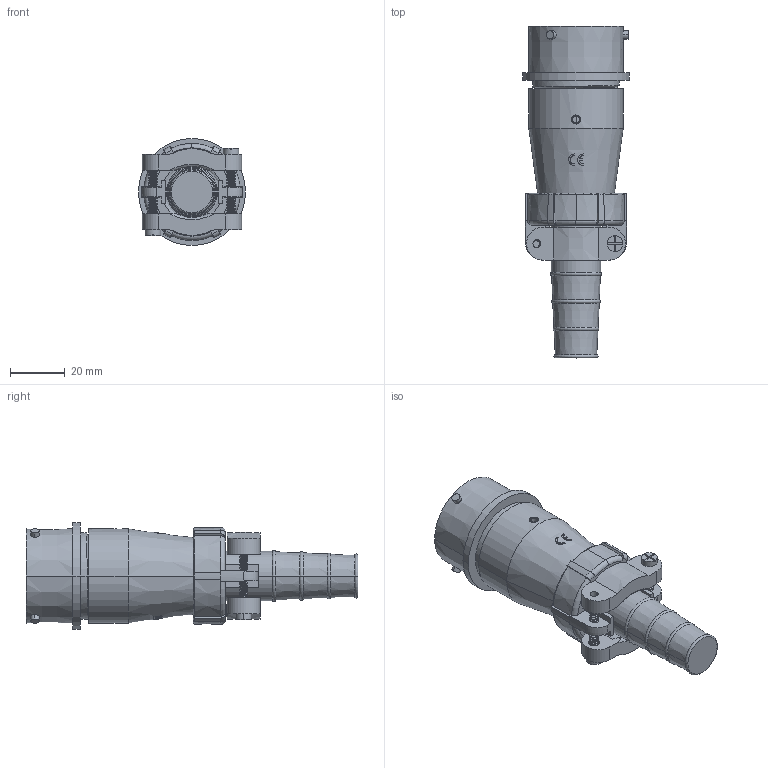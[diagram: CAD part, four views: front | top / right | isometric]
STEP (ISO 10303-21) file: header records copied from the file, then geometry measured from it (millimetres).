
FILE_DESCRIPTION((''),'2;1');
FILE_NAME('ASM0002_ASM','2018-03-29T',('Administrator'),(''),'PRO/ENGINEER BY PARAMETRIC TECHNOLOGY CORPORATION, 2015240','PRO/ENGINEER BY PARAMETRIC TECHNOLOGY CORPORATION, 2015240','');
FILE_SCHEMA(('CONFIG_CONTROL_DESIGN'));
Length unit declared in the file: millimetre
Products named in the file (7): WY32J6-TI; WY32-T; ZP-WS32-MY; WEIZUI; YAXIANBAN; LUOSI; ASM0002_ASM
Assembly tree (8 placements, depth 2):
  ASM0002_ASM
    WY32J6-TI
    WY32-T
    ZP-WS32-MY
    WEIZUI
    YAXIANBAN  x2
    LUOSI  x2
Bounding box: 39 x 121.07 x 39 mm (x, y, z)
Volume: 56833.2 mm3; surface area: 37537.6 mm2
Topology: 8 solids, 8 shells, 708 faces, 1883 edges, 1232 vertices
Faces by surface type: plane 257, cylinder 238, cone 81, bspline 63, torus 40, extrusion 17, sphere 12
Entity records: 30902 total; most frequent: CARTESIAN_POINT 16431, ORIENTED_EDGE 3172, DIRECTION 2693, EDGE_CURVE 1586, VERTEX_POINT 1047, AXIS2_PLACEMENT_3D 1013, VECTOR 667, EDGE_LOOP 667
